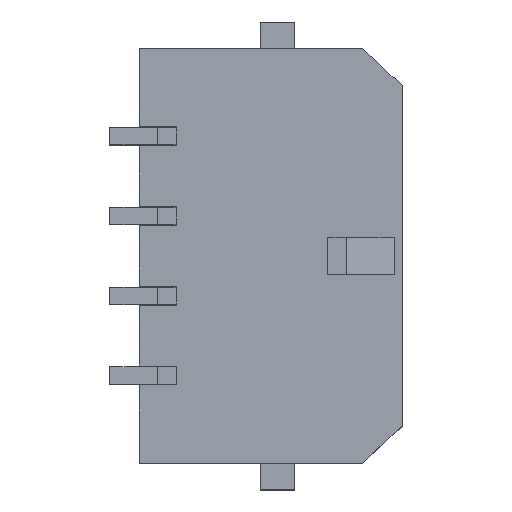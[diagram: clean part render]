
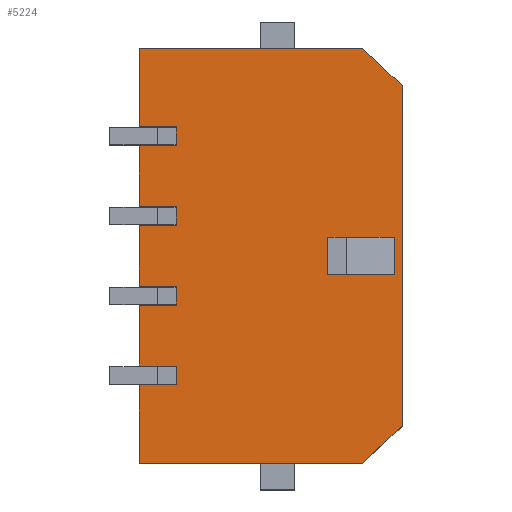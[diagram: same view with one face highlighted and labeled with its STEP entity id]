
A CAD part, top view. The second image highlights one B-rep face of the part: STEP entity #5224.
In plain terms, the highlighted planar face has unit normal (0, 0, 1).
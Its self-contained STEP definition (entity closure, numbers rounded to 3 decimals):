
#23=FACE_BOUND('',#500,.T.);
#222=FACE_OUTER_BOUND('',#499,.T.);
#499=EDGE_LOOP('',(#4170,#4171,#4172,#4173,#4174,#4175,#4176,#4177,#4178,
#4179,#4180,#4181,#4182,#4183,#4184,#4185,#4186,#4187,#4188,#4189,#4190,
#4191));
#500=EDGE_LOOP('',(#4192,#4193,#4194,#4195));
#693=LINE('',#7099,#1405);
#695=LINE('',#7104,#1407);
#698=LINE('',#7110,#1410);
#709=LINE('',#7133,#1421);
#712=LINE('',#7139,#1424);
#717=LINE('',#7148,#1429);
#719=LINE('',#7151,#1431);
#768=LINE('',#7253,#1480);
#806=LINE('',#7329,#1518);
#811=LINE('',#7337,#1523);
#814=LINE('',#7343,#1526);
#817=LINE('',#7349,#1529);
#820=LINE('',#7355,#1532);
#1006=LINE('',#7743,#1718);
#1007=LINE('',#7746,#1719);
#1011=LINE('',#7754,#1723);
#1014=LINE('',#7758,#1726);
#1049=LINE('',#7827,#1761);
#1103=LINE('',#7932,#1815);
#1111=LINE('',#7948,#1823);
#1112=LINE('',#7950,#1824);
#1113=LINE('',#7952,#1825);
#1114=LINE('',#7954,#1826);
#1115=LINE('',#7956,#1827);
#1116=LINE('',#7958,#1828);
#1117=LINE('',#7959,#1829);
#1405=VECTOR('',#5801,1.);
#1407=VECTOR('',#5805,1.);
#1410=VECTOR('',#5810,1.);
#1421=VECTOR('',#5831,1.);
#1424=VECTOR('',#5836,10.);
#1429=VECTOR('',#5843,10.);
#1431=VECTOR('',#5847,1.);
#1480=VECTOR('',#5922,1.);
#1518=VECTOR('',#5978,1.);
#1523=VECTOR('',#5985,1.);
#1526=VECTOR('',#5990,1.);
#1529=VECTOR('',#5995,1.);
#1532=VECTOR('',#6000,1.);
#1718=VECTOR('',#6350,1.);
#1719=VECTOR('',#6353,1.);
#1723=VECTOR('',#6359,1.);
#1726=VECTOR('',#6364,1.);
#1761=VECTOR('',#6427,1.);
#1815=VECTOR('',#6501,1.);
#1823=VECTOR('',#6511,1.);
#1824=VECTOR('',#6512,1.);
#1825=VECTOR('',#6513,1.);
#1826=VECTOR('',#6514,1.);
#1827=VECTOR('',#6515,1.);
#1828=VECTOR('',#6516,1.);
#1829=VECTOR('',#6517,1.);
#2086=VERTEX_POINT('',#7093);
#2088=VERTEX_POINT('',#7097);
#2090=VERTEX_POINT('',#7103);
#2092=VERTEX_POINT('',#7109);
#2097=VERTEX_POINT('',#7129);
#2099=VERTEX_POINT('',#7132);
#2101=VERTEX_POINT('',#7138);
#2104=VERTEX_POINT('',#7145);
#2143=VERTEX_POINT('',#7250);
#2144=VERTEX_POINT('',#7252);
#2173=VERTEX_POINT('',#7328);
#2175=VERTEX_POINT('',#7335);
#2177=VERTEX_POINT('',#7341);
#2179=VERTEX_POINT('',#7347);
#2181=VERTEX_POINT('',#7353);
#2299=VERTEX_POINT('',#7737);
#2301=VERTEX_POINT('',#7741);
#2302=VERTEX_POINT('',#7745);
#2305=VERTEX_POINT('',#7753);
#2366=VERTEX_POINT('',#7931);
#2373=VERTEX_POINT('',#7947);
#2374=VERTEX_POINT('',#7949);
#2375=VERTEX_POINT('',#7951);
#2376=VERTEX_POINT('',#7953);
#2377=VERTEX_POINT('',#7955);
#2378=VERTEX_POINT('',#7957);
#2591=EDGE_CURVE('',#2086,#2088,#693,.T.);
#2593=EDGE_CURVE('',#2090,#2086,#695,.T.);
#2596=EDGE_CURVE('',#2092,#2090,#698,.T.);
#2607=EDGE_CURVE('',#2097,#2099,#709,.T.);
#2610=EDGE_CURVE('',#2101,#2099,#712,.T.);
#2615=EDGE_CURVE('',#2104,#2101,#717,.T.);
#2617=EDGE_CURVE('',#2104,#2097,#719,.T.);
#2666=EDGE_CURVE('',#2143,#2144,#768,.T.);
#2704=EDGE_CURVE('',#2173,#2144,#806,.T.);
#2709=EDGE_CURVE('',#2143,#2175,#811,.T.);
#2712=EDGE_CURVE('',#2175,#2177,#814,.T.);
#2715=EDGE_CURVE('',#2177,#2179,#817,.T.);
#2718=EDGE_CURVE('',#2179,#2181,#820,.T.);
#2908=EDGE_CURVE('',#2299,#2301,#1006,.T.);
#2909=EDGE_CURVE('',#2302,#2299,#1007,.T.);
#2913=EDGE_CURVE('',#2305,#2302,#1011,.T.);
#2916=EDGE_CURVE('',#2181,#2305,#1014,.T.);
#2951=EDGE_CURVE('',#2301,#2092,#1049,.T.);
#3005=EDGE_CURVE('',#2173,#2366,#1103,.T.);
#3013=EDGE_CURVE('',#2088,#2373,#1111,.T.);
#3014=EDGE_CURVE('',#2373,#2374,#1112,.T.);
#3015=EDGE_CURVE('',#2374,#2375,#1113,.T.);
#3016=EDGE_CURVE('',#2375,#2376,#1114,.T.);
#3017=EDGE_CURVE('',#2376,#2377,#1115,.T.);
#3018=EDGE_CURVE('',#2378,#2377,#1116,.T.);
#3019=EDGE_CURVE('',#2378,#2366,#1117,.T.);
#4170=ORIENTED_EDGE('',*,*,#3013,.T.);
#4171=ORIENTED_EDGE('',*,*,#3014,.T.);
#4172=ORIENTED_EDGE('',*,*,#3015,.T.);
#4173=ORIENTED_EDGE('',*,*,#3016,.T.);
#4174=ORIENTED_EDGE('',*,*,#3017,.T.);
#4175=ORIENTED_EDGE('',*,*,#3018,.F.);
#4176=ORIENTED_EDGE('',*,*,#3019,.T.);
#4177=ORIENTED_EDGE('',*,*,#3005,.F.);
#4178=ORIENTED_EDGE('',*,*,#2704,.T.);
#4179=ORIENTED_EDGE('',*,*,#2666,.F.);
#4180=ORIENTED_EDGE('',*,*,#2709,.T.);
#4181=ORIENTED_EDGE('',*,*,#2712,.T.);
#4182=ORIENTED_EDGE('',*,*,#2715,.T.);
#4183=ORIENTED_EDGE('',*,*,#2718,.T.);
#4184=ORIENTED_EDGE('',*,*,#2916,.T.);
#4185=ORIENTED_EDGE('',*,*,#2913,.T.);
#4186=ORIENTED_EDGE('',*,*,#2909,.T.);
#4187=ORIENTED_EDGE('',*,*,#2908,.T.);
#4188=ORIENTED_EDGE('',*,*,#2951,.T.);
#4189=ORIENTED_EDGE('',*,*,#2596,.T.);
#4190=ORIENTED_EDGE('',*,*,#2593,.T.);
#4191=ORIENTED_EDGE('',*,*,#2591,.T.);
#4192=ORIENTED_EDGE('',*,*,#2615,.T.);
#4193=ORIENTED_EDGE('',*,*,#2610,.T.);
#4194=ORIENTED_EDGE('',*,*,#2607,.F.);
#4195=ORIENTED_EDGE('',*,*,#2617,.F.);
#4822=PLANE('',#5520);
#5224=ADVANCED_FACE('',(#222,#23),#4822,.T.);
#5520=AXIS2_PLACEMENT_3D('',#7946,#6509,#6510);
#5801=DIRECTION('',(-1.,0.,0.));
#5805=DIRECTION('',(0.,-1.,0.));
#5810=DIRECTION('',(1.,0.,0.));
#5831=DIRECTION('',(0.,1.,0.));
#5836=DIRECTION('',(1.,0.,0.));
#5843=DIRECTION('',(0.,1.,0.));
#5847=DIRECTION('',(1.,0.,0.));
#5922=DIRECTION('',(1.,0.,0.));
#5978=DIRECTION('',(-0.731,0.682,0.));
#5985=DIRECTION('',(0.,-1.,0.));
#5990=DIRECTION('',(1.,0.,0.));
#5995=DIRECTION('',(0.,-1.,0.));
#6000=DIRECTION('',(-1.,0.,0.));
#6350=DIRECTION('',(-1.,0.,0.));
#6353=DIRECTION('',(0.,-1.,0.));
#6359=DIRECTION('',(1.,0.,0.));
#6364=DIRECTION('',(0.,-1.,0.));
#6427=DIRECTION('',(0.,-1.,0.));
#6501=DIRECTION('',(0.,-1.,0.));
#6509=DIRECTION('center_axis',(0.,0.,1.));
#6510=DIRECTION('ref_axis',(0.,1.,0.));
#6511=DIRECTION('',(0.,-1.,0.));
#6512=DIRECTION('',(1.,0.,0.));
#6513=DIRECTION('',(0.,-1.,0.));
#6514=DIRECTION('',(-1.,0.,0.));
#6515=DIRECTION('',(0.,-1.,0.));
#6516=DIRECTION('',(-1.,0.,0.));
#6517=DIRECTION('',(0.731,0.682,0.));
#7093=CARTESIAN_POINT('',(51.41,-67.53,38.));
#7097=CARTESIAN_POINT('',(50.,-67.53,38.));
#7099=CARTESIAN_POINT('',(59.9,-67.53,38.));
#7103=CARTESIAN_POINT('',(51.41,-66.82,38.));
#7104=CARTESIAN_POINT('',(51.41,-63.85,38.));
#7109=CARTESIAN_POINT('',(50.,-66.82,38.));
#7110=CARTESIAN_POINT('',(59.9,-66.82,38.));
#7129=CARTESIAN_POINT('',(59.6,-66.375,38.));
#7132=CARTESIAN_POINT('',(59.6,-64.975,38.));
#7133=CARTESIAN_POINT('',(59.6,-46.895,38.));
#7138=CARTESIAN_POINT('',(57.3,-64.975,38.));
#7139=CARTESIAN_POINT('',(59.751,-64.975,38.));
#7145=CARTESIAN_POINT('',(57.3,-66.375,38.));
#7148=CARTESIAN_POINT('',(57.3,-77.542,38.));
#7151=CARTESIAN_POINT('',(59.9,-66.375,38.));
#7250=CARTESIAN_POINT('',(50.,-57.875,38.));
#7252=CARTESIAN_POINT('',(58.4,-57.875,38.));
#7253=CARTESIAN_POINT('',(59.9,-57.875,38.));
#7328=CARTESIAN_POINT('',(59.9,-59.275,38.));
#7329=CARTESIAN_POINT('',(59.9,-59.275,38.));
#7335=CARTESIAN_POINT('',(50.,-60.82,38.));
#7337=CARTESIAN_POINT('',(50.,-67.525,38.));
#7341=CARTESIAN_POINT('',(51.41,-60.82,38.));
#7343=CARTESIAN_POINT('',(59.9,-60.82,38.));
#7347=CARTESIAN_POINT('',(51.41,-61.53,38.));
#7349=CARTESIAN_POINT('',(51.41,-60.85,38.));
#7353=CARTESIAN_POINT('',(50.,-61.53,38.));
#7355=CARTESIAN_POINT('',(59.9,-61.53,38.));
#7737=CARTESIAN_POINT('',(51.41,-64.53,38.));
#7741=CARTESIAN_POINT('',(50.,-64.53,38.));
#7743=CARTESIAN_POINT('',(59.9,-64.53,38.));
#7745=CARTESIAN_POINT('',(51.41,-63.82,38.));
#7746=CARTESIAN_POINT('',(51.41,-63.85,38.));
#7753=CARTESIAN_POINT('',(50.,-63.82,38.));
#7754=CARTESIAN_POINT('',(59.9,-63.82,38.));
#7758=CARTESIAN_POINT('',(50.,-67.5,38.));
#7827=CARTESIAN_POINT('',(50.,-70.5,38.));
#7931=CARTESIAN_POINT('',(59.9,-72.075,38.));
#7932=CARTESIAN_POINT('',(59.9,-66.85,38.));
#7946=CARTESIAN_POINT('Origin',(59.901,-83.408,38.));
#7947=CARTESIAN_POINT('',(50.,-69.82,38.));
#7948=CARTESIAN_POINT('',(50.,-73.5,38.));
#7949=CARTESIAN_POINT('',(51.41,-69.82,38.));
#7950=CARTESIAN_POINT('',(59.9,-69.82,38.));
#7951=CARTESIAN_POINT('',(51.41,-70.53,38.));
#7952=CARTESIAN_POINT('',(51.41,-66.85,38.));
#7953=CARTESIAN_POINT('',(50.,-70.53,38.));
#7954=CARTESIAN_POINT('',(59.9,-70.53,38.));
#7955=CARTESIAN_POINT('',(50.,-73.475,38.));
#7956=CARTESIAN_POINT('',(50.,-63.825,38.));
#7957=CARTESIAN_POINT('',(58.4,-73.475,38.));
#7958=CARTESIAN_POINT('',(59.9,-73.475,38.));
#7959=CARTESIAN_POINT('',(59.9,-72.075,38.));
